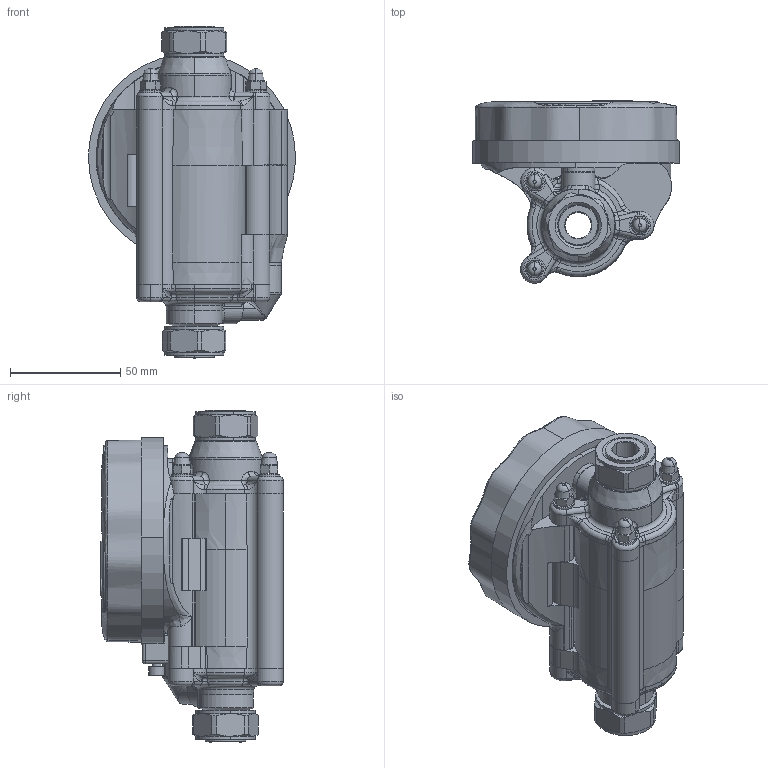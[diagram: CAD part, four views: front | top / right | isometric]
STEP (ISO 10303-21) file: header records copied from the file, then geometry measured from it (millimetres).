
FILE_DESCRIPTION (( 'STEP AP214' ), '1' );
FILE_NAME ('PAP-S015 3D.STEP', '2020-01-31T16:07:02', ( 'Windows User' ), ( 'Watts Water' ), 'SwSTEP 2.0', 'SolidWorks 2017', '' );
FILE_SCHEMA (( 'AUTOMOTIVE_DESIGN' ));
Length unit declared in the file: millimetre
Products named in the file (1): PAP-S015 3D
Bounding box: 93.93 x 82.65 x 150.61 mm (x, y, z)
Surface area: 77530.7 mm2 (no closed solid volume)
Topology: 0 solids, 34 shells, 763 faces, 2405 edges, 1606 vertices
Faces by surface type: plane 242, cylinder 203, bspline 108, torus 93, cone 88, sphere 29
Entity records: 55159 total; most frequent: CARTESIAN_POINT 26811, ORIENTED_EDGE 4037, DIRECTION 3992, EDGE_CURVE 2377, VERTEX_POINT 1604, AXIS2_PLACEMENT_3D 1561, CIRCLE 905, VECTOR 870
